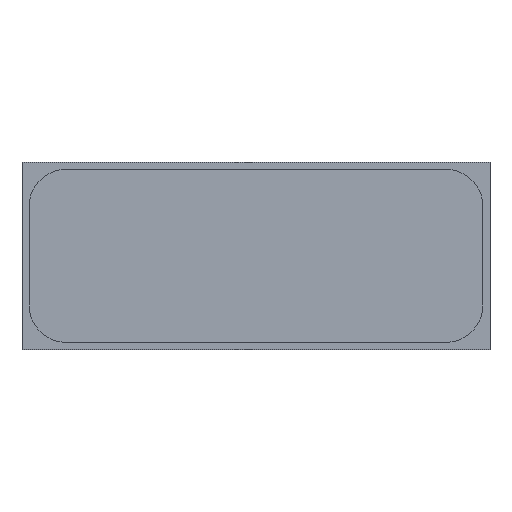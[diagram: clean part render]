
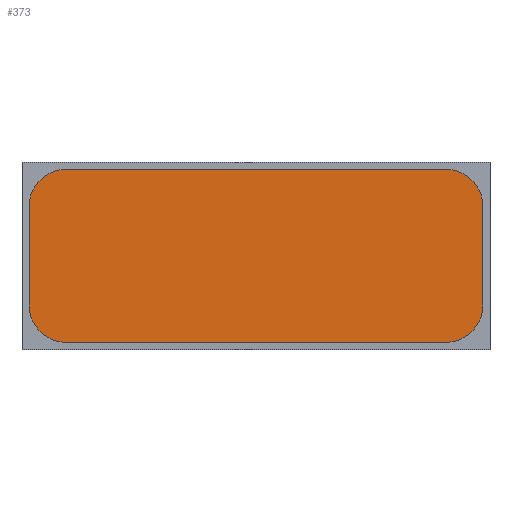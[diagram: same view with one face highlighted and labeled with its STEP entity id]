
A CAD part, top view. The second image highlights one B-rep face of the part: STEP entity #373.
In plain terms, the highlighted planar face has unit normal (0, 0, 1).
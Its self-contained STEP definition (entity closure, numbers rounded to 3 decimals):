
#373 = ADVANCED_FACE( '', ( #884 ), #885, .T. );
#884 = FACE_OUTER_BOUND( '', #1595, .T. );
#885 = PLANE( '', #1596 );
#1595 = EDGE_LOOP( '', ( #2752, #2753, #2754, #2755, #2756, #2757, #2758, #2759 ) );
#1596 = AXIS2_PLACEMENT_3D( '', #2760, #2761, #2762 );
#2752 = ORIENTED_EDGE( '', *, *, #4184, .T. );
#2753 = ORIENTED_EDGE( '', *, *, #4180, .T. );
#2754 = ORIENTED_EDGE( '', *, *, #4185, .T. );
#2755 = ORIENTED_EDGE( '', *, *, #4186, .T. );
#2756 = ORIENTED_EDGE( '', *, *, #4104, .T. );
#2757 = ORIENTED_EDGE( '', *, *, #3958, .T. );
#2758 = ORIENTED_EDGE( '', *, *, #4074, .T. );
#2759 = ORIENTED_EDGE( '', *, *, #4187, .T. );
#2760 = CARTESIAN_POINT( '', ( -20.25, 5.25, 19.8 ) );
#2761 = DIRECTION( '', ( 0., 0., 1. ) );
#2762 = DIRECTION( '', ( 1., 0., 0. ) );
#3958 = EDGE_CURVE( '', #4756, #4753, #4757, .T. );
#4074 = EDGE_CURVE( '', #4753, #4945, #4946, .T. );
#4104 = EDGE_CURVE( '', #4988, #4756, #4989, .T. );
#4180 = EDGE_CURVE( '', #5098, #5095, #5099, .T. );
#4184 = EDGE_CURVE( '', #5104, #5098, #5105, .T. );
#4185 = EDGE_CURVE( '', #5095, #5106, #5107, .T. );
#4186 = EDGE_CURVE( '', #5106, #4988, #5108, .T. );
#4187 = EDGE_CURVE( '', #4945, #5104, #5109, .T. );
#4753 = VERTEX_POINT( '', #5850 );
#4756 = VERTEX_POINT( '', #5854 );
#4757 = CIRCLE( '', #5855, 4. );
#4945 = VERTEX_POINT( '', #6111 );
#4946 = LINE( '', #6112, #6113 );
#4988 = VERTEX_POINT( '', #6169 );
#4989 = LINE( '', #6170, #6171 );
#5095 = VERTEX_POINT( '', #6332 );
#5098 = VERTEX_POINT( '', #6336 );
#5099 = CIRCLE( '', #6337, 4. );
#5104 = VERTEX_POINT( '', #6343 );
#5105 = LINE( '', #6344, #6345 );
#5106 = VERTEX_POINT( '', #6346 );
#5107 = LINE( '', #6347, #6348 );
#5108 = CIRCLE( '', #6349, 4. );
#5109 = CIRCLE( '', #6350, 4. );
#5850 = CARTESIAN_POINT( '', ( 24.25, -5.25, 19.8 ) );
#5854 = CARTESIAN_POINT( '', ( 20.25, -9.25, 19.8 ) );
#5855 = AXIS2_PLACEMENT_3D( '', #6997, #6998, #6999 );
#6111 = CARTESIAN_POINT( '', ( 24.25, 5.25, 19.8 ) );
#6112 = CARTESIAN_POINT( '', ( 24.25, 5.25, 19.8 ) );
#6113 = VECTOR( '', #7152, 1000. );
#6169 = CARTESIAN_POINT( '', ( -20.25, -9.25, 19.8 ) );
#6170 = CARTESIAN_POINT( '', ( 20.25, -9.25, 19.8 ) );
#6171 = VECTOR( '', #7185, 1000. );
#6332 = CARTESIAN_POINT( '', ( -24.25, 5.25, 19.8 ) );
#6336 = CARTESIAN_POINT( '', ( -20.25, 9.25, 19.8 ) );
#6337 = AXIS2_PLACEMENT_3D( '', #7254, #7255, #7256 );
#6343 = CARTESIAN_POINT( '', ( 20.25, 9.25, 19.8 ) );
#6344 = CARTESIAN_POINT( '', ( -20.25, 9.25, 19.8 ) );
#6345 = VECTOR( '', #7261, 1000. );
#6346 = CARTESIAN_POINT( '', ( -24.25, -5.25, 19.8 ) );
#6347 = CARTESIAN_POINT( '', ( -24.25, -5.25, 19.8 ) );
#6348 = VECTOR( '', #7262, 1000. );
#6349 = AXIS2_PLACEMENT_3D( '', #7263, #7264, #7265 );
#6350 = AXIS2_PLACEMENT_3D( '', #7266, #7267, #7268 );
#6997 = CARTESIAN_POINT( '', ( 20.25, -5.25, 19.8 ) );
#6998 = DIRECTION( '', ( 0., 0., 1. ) );
#6999 = DIRECTION( '', ( -1., 0., 0. ) );
#7152 = DIRECTION( '', ( 0., 1., 0. ) );
#7185 = DIRECTION( '', ( 1., 0., 0. ) );
#7254 = CARTESIAN_POINT( '', ( -20.25, 5.25, 19.8 ) );
#7255 = DIRECTION( '', ( 0., 0., 1. ) );
#7256 = DIRECTION( '', ( 1., 0., 0. ) );
#7261 = DIRECTION( '', ( -1., 0., 0. ) );
#7262 = DIRECTION( '', ( 0., -1., 0. ) );
#7263 = CARTESIAN_POINT( '', ( -20.25, -5.25, 19.8 ) );
#7264 = DIRECTION( '', ( 0., 0., 1. ) );
#7265 = DIRECTION( '', ( 1., 0., 0. ) );
#7266 = CARTESIAN_POINT( '', ( 20.25, 5.25, 19.8 ) );
#7267 = DIRECTION( '', ( 0., 0., 1. ) );
#7268 = DIRECTION( '', ( 1., 0., 0. ) );
